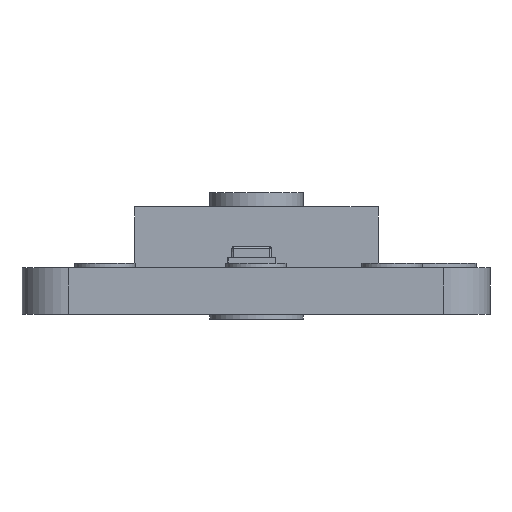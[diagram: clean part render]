
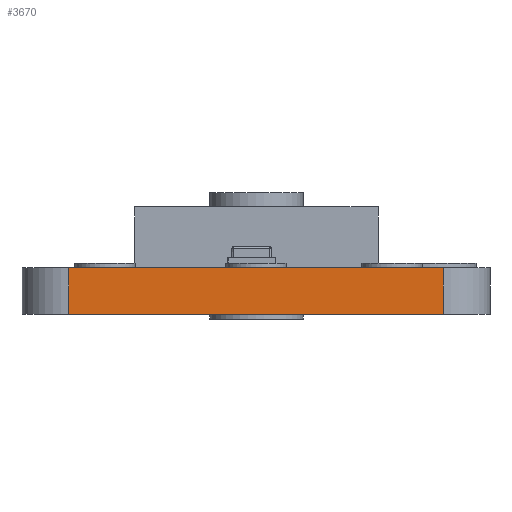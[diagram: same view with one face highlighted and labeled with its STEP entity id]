
A CAD part, front view. The second image highlights one B-rep face of the part: STEP entity #3670.
In plain terms, the highlighted planar face has unit normal (0, -1, 0).
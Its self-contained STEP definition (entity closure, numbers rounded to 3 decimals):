
#130 = DIRECTION ( 'NONE',  ( -1., 0., 0. ) ) ;
#214 = LINE ( 'NONE', #4908, #1087 ) ;
#328 = VECTOR ( 'NONE', #1658, 1000. ) ;
#417 = CARTESIAN_POINT ( 'NONE',  ( 44.201, 14.145, 0. ) ) ;
#723 = DIRECTION ( 'NONE',  ( 0., -1., 0. ) ) ;
#745 = CARTESIAN_POINT ( 'NONE',  ( 52.201, 14.145, 0. ) ) ;
#762 = ORIENTED_EDGE ( 'NONE', *, *, #3103, .F. ) ;
#1087 = VECTOR ( 'NONE', #7263, 1000. ) ;
#1187 = EDGE_CURVE ( 'NONE', #3898, #5280, #6672, .T. ) ;
#1658 = DIRECTION ( 'NONE',  ( 0., 0., -1. ) ) ;
#1852 = DIRECTION ( 'NONE',  ( 0., 0., -1. ) ) ;
#1957 = CARTESIAN_POINT ( 'NONE',  ( 44.201, 14.145, -1. ) ) ;
#1980 = VERTEX_POINT ( 'NONE', #1957 ) ;
#2283 = CARTESIAN_POINT ( 'NONE',  ( 44.201, 14.145, 0. ) ) ;
#2432 = CARTESIAN_POINT ( 'NONE',  ( 52.201, 14.145, 0. ) ) ;
#2757 = VECTOR ( 'NONE', #3740, 1000. ) ;
#2817 = ORIENTED_EDGE ( 'NONE', *, *, #6259, .T. ) ;
#2846 = FACE_OUTER_BOUND ( 'NONE', #6897, .T. ) ;
#3103 = EDGE_CURVE ( 'NONE', #5280, #1980, #214, .T. ) ;
#3586 = EDGE_CURVE ( 'NONE', #7549, #1980, #7577, .T. ) ;
#3670 = ADVANCED_FACE ( 'NONE', ( #2846 ), #7542, .T. ) ;
#3740 = DIRECTION ( 'NONE',  ( 0., 0., -1. ) ) ;
#3898 = VERTEX_POINT ( 'NONE', #7390 ) ;
#4045 = ORIENTED_EDGE ( 'NONE', *, *, #1187, .F. ) ;
#4177 = LINE ( 'NONE', #745, #6067 ) ;
#4908 = CARTESIAN_POINT ( 'NONE',  ( 52.201, 14.145, -1. ) ) ;
#5129 = CARTESIAN_POINT ( 'NONE',  ( 52.201, 14.145, -1. ) ) ;
#5280 = VERTEX_POINT ( 'NONE', #5129 ) ;
#6067 = VECTOR ( 'NONE', #130, 1000. ) ;
#6259 = EDGE_CURVE ( 'NONE', #3898, #7549, #4177, .T. ) ;
#6637 = CARTESIAN_POINT ( 'NONE',  ( 52.201, 14.145, 0. ) ) ;
#6672 = LINE ( 'NONE', #6637, #2757 ) ;
#6897 = EDGE_LOOP ( 'NONE', ( #2817, #7211, #762, #4045 ) ) ;
#7092 = AXIS2_PLACEMENT_3D ( 'NONE', #2432, #723, #1852 ) ;
#7211 = ORIENTED_EDGE ( 'NONE', *, *, #3586, .T. ) ;
#7263 = DIRECTION ( 'NONE',  ( -1., 0., 0. ) ) ;
#7390 = CARTESIAN_POINT ( 'NONE',  ( 52.201, 14.145, 0. ) ) ;
#7542 = PLANE ( 'NONE',  #7092 ) ;
#7549 = VERTEX_POINT ( 'NONE', #2283 ) ;
#7577 = LINE ( 'NONE', #417, #328 ) ;
